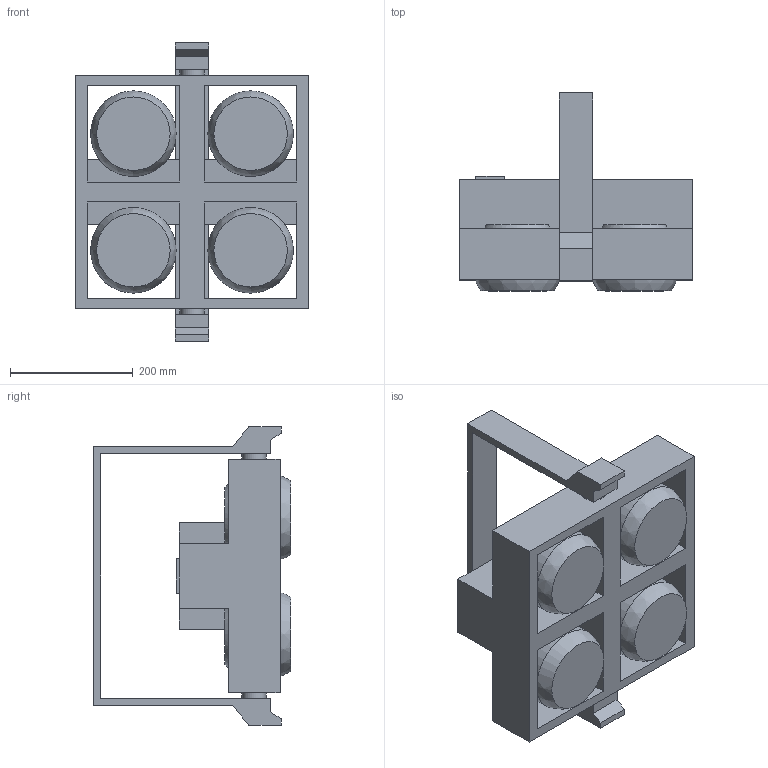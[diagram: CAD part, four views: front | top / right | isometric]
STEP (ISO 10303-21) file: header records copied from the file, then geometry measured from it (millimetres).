
FILE_DESCRIPTION(/* description */ (''),/* implementation_level */ '2;1');
FILE_NAME(/* name */ 'Strike Array 4C_90.stp',/* time_stamp */ '2024-02-07T14:35:14-05:00',/* author */ ('chenry'),/* organization */ (''),/* preprocessor_version */ 'ST-DEVELOPER v20',/* originating_system */ 'Autodesk Inventor 2024',/* authorisation */ '');
FILE_SCHEMA (('AUTOMOTIVE_DESIGN { 1 0 10303 214 3 1 1 }'));
Length unit declared in the file: millimetre
Products named in the file (3): Strike Array 4C; Body; Bracket
Assembly tree (2 placements, depth 2):
  Strike Array 4C
    Body
    Bracket
Bounding box: 380 x 322.05 x 486 mm (x, y, z)
Volume: 14465739.1 mm3; surface area: 988593.6 mm2
Topology: 6 solids, 6 shells, 85 faces, 212 edges, 140 vertices
Faces by surface type: plane 69, cylinder 8, bspline 8
Full cylindrical faces by diameter (mm): 39.412 x4, 139.449 x4
Entity records: 2827 total; most frequent: CARTESIAN_POINT 650, ORIENTED_EDGE 424, DIRECTION 416, EDGE_CURVE 212, LINE 172, VECTOR 172, VERTEX_POINT 140, AXIS2_PLACEMENT_3D 122
